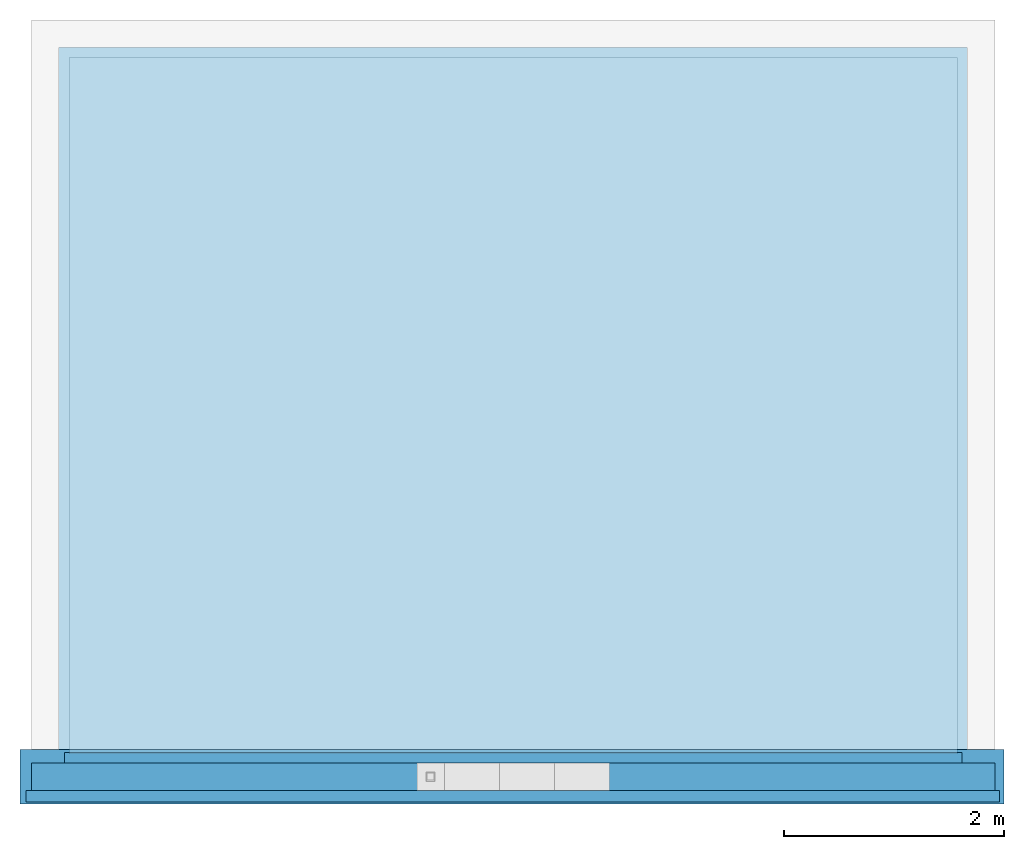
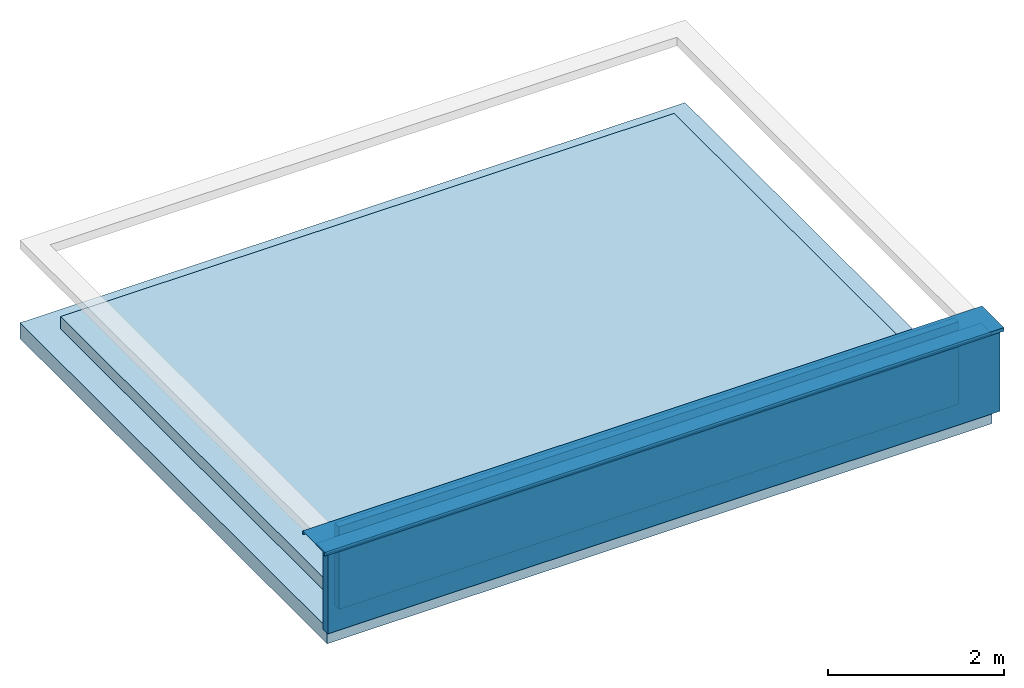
# One storey, incomplete: 3 walls, 2 slabs, 1 beam.
"""IFC4 building model written with IfcOpenShell, lengths in centimetres."""

import ifcopenshell
import ifcopenshell.guid

model = None  # the IFC model being written
_history = None  # IfcOwnerHistory: only IFC2X3 demands one
_inside = {}  # id of a spatial element -> (the spatial element, [elements in it])
_under = {}  # id of a project, library or spatial element -> (it, [spatial elements below it])
_declared = {}  # id of a project -> (the project, [libraries it declares])
_typed = {}  # id of a type object -> (the type object, [elements of that type])
_made_of = {}  # id of a material, layer set ... -> (it, [elements and type objects made of it])


def new_model(schema):
    """Start an empty IFC model of exactly this schema.

    Asked for "IFC4X3", IfcOpenShell would pick the latest addendum, in which some entities
    have other attributes; the version numbers below select the first issue.
    IFC2X3 requires an IfcOwnerHistory on every rooted entity: one is made here for all.
    """
    global model, _history
    if schema == "IFC4X3":
        model = ifcopenshell.file(schema_version=(4, 3, 0, 0))
    else:
        model = ifcopenshell.file(schema=schema)
    _inside.clear()
    _under.clear()
    _declared.clear()
    _typed.clear()
    _made_of.clear()
    _history = None
    if model.schema == "IFC2X3":
        org = make("IfcOrganization", Name="unknown")
        user = make(
            "IfcPersonAndOrganization",
            ThePerson=make("IfcPerson", FamilyName="unknown"),
            TheOrganization=org,
        )
        app = make(
            "IfcApplication",
            ApplicationDeveloper=org,
            Version="unknown",
            ApplicationFullName="unknown",
            ApplicationIdentifier="unknown",
        )
        _history = make(
            "IfcOwnerHistory",
            OwningUser=user,
            OwningApplication=app,
            ChangeAction="ADDED",
            CreationDate=0,
        )
    return model


def make(cls, **values):
    """One entity of the class cls with the attributes given. An attribute that is None is left unset."""
    return model.create_entity(
        cls, **{name: value for name, value in values.items() if value is not None}
    )


def entity(cls, *values):
    """Any entity or typed value of the class cls, its attributes in the order of the schema. None: left unset."""
    e = model.create_entity(cls)
    for i, value in enumerate(values):
        if value is not None:
            e[i] = value
    return e


def rooted(cls, **values):
    """An entity with a GlobalId (a new one), such as an element, a storey or a relation."""
    return make(cls, GlobalId=ifcopenshell.guid.new(), OwnerHistory=_history, **values)


def si_unit(unit_type, name, prefix=None):
    """IfcSIUnit, for example si_unit("LENGTHUNIT", "METRE", prefix="MILLI")."""
    return make("IfcSIUnit", UnitType=unit_type, Prefix=prefix, Name=name)


def converted_unit(unit_type, name, factor, base, dimensions=None, offset=None):
    """IfcConversionBasedUnit, such as the inch: factor (a typed value) times the base unit."""
    return make(
        "IfcConversionBasedUnit"
        if offset is None
        else "IfcConversionBasedUnitWithOffset",
        ConversionOffset=offset,
        Dimensions=None
        if dimensions is None
        else entity("IfcDimensionalExponents", *dimensions),
        UnitType=unit_type,
        Name=name,
        ConversionFactor=make(
            "IfcMeasureWithUnit", ValueComponent=factor, UnitComponent=base
        ),
    )


def assignment(units):
    """IfcUnitAssignment: the units of a project."""
    return None if units is None else make("IfcUnitAssignment", Units=units)


def point(xyz):
    """IfcCartesianPoint."""
    return None if xyz is None else make("IfcCartesianPoint", Coordinates=xyz)


def direction(xyz):
    """IfcDirection."""
    return None if xyz is None else make("IfcDirection", DirectionRatios=xyz)


def frame(location, z_axis=None, x_axis=None):
    """IfcAxis2Placement3D, a coordinate frame: its origin and axes. An axis left out is left unset."""
    return make(
        "IfcAxis2Placement3D",
        Location=point(location),
        Axis=direction(z_axis),
        RefDirection=direction(x_axis),
    )


def origin():
    """The frame at (0, 0, 0) with its axes left unset."""
    return frame((0.0, 0.0, 0.0))


def place(relative_to, where):
    """IfcLocalPlacement: puts the frame where relative to a parent placement (None: the world)."""
    return make(
        "IfcLocalPlacement", PlacementRelTo=relative_to, RelativePlacement=where
    )


def context(
    kind, dimensions, precision=None, world=None, true_north=None, identifier=None
):
    """IfcGeometricRepresentationContext, for example the 3D "Model" context."""
    return make(
        "IfcGeometricRepresentationContext",
        ContextIdentifier=identifier,
        ContextType=kind,
        CoordinateSpaceDimension=dimensions,
        Precision=precision,
        WorldCoordinateSystem=world,
        TrueNorth=true_north,
    )


def subcontext(parent, identifier, kind, view, scale=None):
    """IfcGeometricRepresentationSubContext, for example "Body" below "Model"."""
    return make(
        "IfcGeometricRepresentationSubContext",
        ContextIdentifier=identifier,
        ContextType=kind,
        ParentContext=parent,
        TargetScale=scale,
        TargetView=view,
    )


def project(units=None, contexts=None):
    """IfcProject with its units and contexts."""
    return rooted(
        "IfcProject",
        Name="project",
        RepresentationContexts=contexts,
        UnitsInContext=assignment(units),
    )


def spatial(cls, under=None, at=None, **own):
    """A site, building, storey or space (cls), placed at a placement, below another one or the project."""
    s = rooted(cls, ObjectPlacement=at, **own)
    if under is not None:
        _under.setdefault(under.id(), (under, []))[1].append(s)
    return s


def point_list(points):
    """IfcCartesianPointList2D or 3D."""
    cls = (
        "IfcCartesianPointList2D" if len(points[0]) == 2 else "IfcCartesianPointList3D"
    )
    return make(cls, CoordList=points)


def indexed_curve(points, segments=None, self_intersect=None):
    """IfcIndexedPolyCurve: lines and arcs through numbered points (the first is 1)."""
    return make(
        "IfcIndexedPolyCurve",
        Points=point_list(points),
        Segments=segments,
        SelfIntersect=self_intersect,
    )


def outline(outer, holes=None, kind="AREA"):
    """IfcArbitraryClosedProfileDef: a profile drawn as a closed curve; with holes, ...WithVoids."""
    if holes is None:
        return make("IfcArbitraryClosedProfileDef", ProfileType=kind, OuterCurve=outer)
    return make(
        "IfcArbitraryProfileDefWithVoids",
        ProfileType=kind,
        OuterCurve=outer,
        InnerCurves=holes,
    )


def extrude(swept, where, along, depth):
    """IfcExtrudedAreaSolid: the profile swept, set in the frame where, extruded along a direction by depth."""
    return make(
        "IfcExtrudedAreaSolid",
        SweptArea=swept,
        Position=where,
        ExtrudedDirection=direction(along),
        Depth=depth,
    )


def shape(context_of_items, identifier, shape_type, items):
    """IfcShapeRepresentation: the items that make up one representation, for example the "Body"."""
    return make(
        "IfcShapeRepresentation",
        ContextOfItems=context_of_items,
        RepresentationIdentifier=identifier,
        RepresentationType=shape_type,
        Items=items,
    )


def source(mapping_origin, context_of_items, identifier, shape_type, items):
    """IfcRepresentationMap: a shape defined once, which mapped items show again and again."""
    return make(
        "IfcRepresentationMap",
        MappingOrigin=mapping_origin,
        MappedRepresentation=shape(context_of_items, identifier, shape_type, items),
    )


def transform(
    local_origin,
    x_axis=None,
    y_axis=None,
    z_axis=None,
    scale=None,
    scale2=None,
    scale3=None,
    uniform=True,
):
    """IfcCartesianTransformationOperator3D, or its non-uniform kind. x_axis, y_axis, z_axis: its Axis1, 2, 3."""
    if uniform:
        return make(
            "IfcCartesianTransformationOperator3D",
            Axis1=direction(x_axis),
            Axis2=direction(y_axis),
            LocalOrigin=point(local_origin),
            Scale=scale,
            Axis3=direction(z_axis),
        )
    return make(
        "IfcCartesianTransformationOperator3DnonUniform",
        Axis1=direction(x_axis),
        Axis2=direction(y_axis),
        LocalOrigin=point(local_origin),
        Scale=scale,
        Axis3=direction(z_axis),
        Scale2=scale2,
        Scale3=scale3,
    )


def mapped(mapping_source, mapping_target):
    """IfcMappedItem: shows the shape of a source again, moved by a transform."""
    return make(
        "IfcMappedItem", MappingSource=mapping_source, MappingTarget=mapping_target
    )


def material(Name=None, Category=None):
    """IfcMaterial."""
    return make("IfcMaterial", Name=Name, Category=Category)


def constituent(of_material, Name=None, Category=None, fraction=None):
    """IfcMaterialConstituent: one of the materials an element consists of."""
    return make(
        "IfcMaterialConstituent",
        Name=Name,
        Material=of_material,
        Fraction=fraction,
        Category=Category,
    )


def constituent_set(constituents=None, Name=None):
    """IfcMaterialConstituentSet."""
    return make(
        "IfcMaterialConstituentSet", Name=Name, MaterialConstituents=constituents
    )


def made_of(thing, what):
    """Note that an element or type object is made of a material, layer set ...; save() writes the relation."""
    if what is not None:
        _made_of.setdefault(what.id(), (what, []))[1].append(thing)
    return thing


def type_object(cls, material=None, **own):
    """A type object (cls), such as IfcWallType, which elements share."""
    return made_of(rooted(cls, **own), material)


def type_shapes(of_type, sources):
    """Give a type object the sources (RepresentationMaps) that its elements show as mapped items."""
    of_type.RepresentationMaps = sources


def element(
    cls,
    number,
    at=None,
    inside=None,
    cuts=None,
    type_object=None,
    material=None,
    context=None,
    identifier="Body",
    shape_type=None,
    held_by="IfcProductDefinitionShape",
    body=None,
    shapes=None,
    **own,
):
    """One element of the class cls, such as IfcWall. Its Tag is "e" and its number.

    at: its placement. inside: the storey or other place that contains it. cuts: it is an
    opening in that element (IfcRelVoidsElement). A single representation is given by context,
    identifier, shape_type and body (its items); several are given by shapes. held_by: the class
    of the entity that holds the representations. save() writes the other relations.
    """
    e = rooted(cls, Tag="e%d" % number, ObjectPlacement=at, **own)
    if body is not None:
        shapes = [shape(context, identifier, shape_type, body)]
    if shapes is not None:
        e.Representation = make(held_by, Representations=shapes)
    if inside is not None:
        _inside.setdefault(inside.id(), (inside, []))[1].append(e)
    if cuts is not None:
        rooted(
            "IfcRelVoidsElement", RelatingBuildingElement=cuts, RelatedOpeningElement=e
        )
    if type_object is not None:
        _typed.setdefault(type_object.id(), (type_object, []))[1].append(e)
    return made_of(e, material)


def aggregate(whole, parts):
    """IfcRelAggregates: a whole, such as a stair, and the parts it consists of."""
    return rooted("IfcRelAggregates", RelatingObject=whole, RelatedObjects=parts)


def save(model, path):
    """Write the relations noted so far, then the file.

    IfcRelAggregates (storeys below a building ...), IfcRelContainedInSpatialStructure (elements
    in a storey), IfcRelDefinesByType, IfcRelAssociatesMaterial and IfcRelDeclares: one each for
    every whole, place, type object, material and project.
    """
    for whole, parts in _under.values():
        aggregate(whole, parts)
    for where, things in _inside.values():
        rooted(
            "IfcRelContainedInSpatialStructure",
            RelatedElements=things,
            RelatingStructure=where,
        )
    for kind, things in _typed.values():
        rooted("IfcRelDefinesByType", RelatedObjects=things, RelatingType=kind)
    for what, things in _made_of.values():
        rooted("IfcRelAssociatesMaterial", RelatedObjects=things, RelatingMaterial=what)
    for by, libraries in _declared.values():
        rooted("IfcRelDeclares", RelatingContext=by, RelatedDefinitions=libraries)
    model.write(path)


model = new_model("IFC4")

# Units and contexts
model_context = context("Model", 3, precision=0.001, world=origin(), true_north=direction((0.0, 1.0)))
body_context = subcontext(model_context, "Body", "Model", "MODEL_VIEW")
ifc_project = project(units=[si_unit("LENGTHUNIT", "METRE", prefix="CENTI"), si_unit("AREAUNIT", "SQUARE_METRE"), si_unit("VOLUMEUNIT", "CUBIC_METRE"), converted_unit("PLANEANGLEUNIT", "DEGREE", entity("IfcPlaneAngleMeasure", 0.017453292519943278), si_unit("PLANEANGLEUNIT", "RADIAN"), dimensions=[0, 0, 0, 0, 0, 0, 0])], contexts=[model_context])

# Site, building, storey
site_placement = place(None, origin())
site = spatial("IfcSite", under=ifc_project, at=site_placement, Name="Default", CompositionType="ELEMENT")
building_placement = place(site_placement, origin())
building = spatial("IfcBuilding", under=site, at=building_placement, CompositionType="ELEMENT")
storey_placement = place(building_placement, frame((0.0, 0.0, 843.0)))
storey = spatial("IfcBuildingStorey", under=building, at=storey_placement, Name="L03__ABOVE Slab", CompositionType="ELEMENT", Elevation=842.9999999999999)

# Beam
ifc_material_1 = material(Name="_SILL__Sill__Metal", Category="Miscellaneous")
beam_type = type_object("IfcBeamType", Name="Structural Framing : wll__PARAPET CAP__Metal__sf : Wall Coping w/ H 50mm Nose, Standing Seam Profile", PredefinedType="BEAM", material=ifc_material_1)
shared_shape = source(origin(), body_context, "Body", "SweptSolid", [
    extrude(outline(indexed_curve([(-3.4250000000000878, -24.900000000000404), (1.5749999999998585, -24.900000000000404), (1.5749999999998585, -24.10000000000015), (0.37499999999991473, -24.10000000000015), (0.37499999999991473, -24.300000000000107), (1.3749999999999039, -24.300000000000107), (1.3749999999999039, -24.700000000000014), (-3.225000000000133, -24.700000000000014), (-3.225000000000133, 24.699999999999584), (1.3749999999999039, 24.699999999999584), (1.3749999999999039, 24.299999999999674), (0.37499999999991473, 24.299999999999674), (0.37499999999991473, 24.099999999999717), (1.5749999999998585, 24.099999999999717), (1.5749999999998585, 24.899999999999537), (-3.4250000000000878, 24.899999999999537), (-3.4250000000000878, -24.900000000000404)], self_intersect=False)), frame((2766.7073258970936, 3163.202254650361, 968.6750000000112), z_axis=(-1.0, 0.0, 0.0), x_axis=(0.0, 0.0, -1.0)), (0.0, 0.0, 1.0), 893.9999999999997),
])
type_shapes(beam_type, [shared_shape])
beam_placement = place(storey_placement, frame((0.0, 0.0, -843.0)))
element("IfcBeam", 1, at=beam_placement, inside=storey, type_object=beam_type, material=ifc_material_1, Name="Structural Framing : wll__PARAPET CAP__Metal__sf : Wall Coping w/ H 50mm Nose, Standing Seam Profile", PredefinedType="BEAM", context=body_context, shape_type="MappedRepresentation", body=[
    mapped(shared_shape, transform((0.0, 0.0, 0.0), scale=1.0)),
])

# Slabs
ifc_material_2 = material(Name="_STRUCTURE__Wood CLT")
slab_type_1 = type_object("IfcSlabType", Name="Floors : Floor : flr__STRUCTURE__Wood CLT 22cm__TriqBriq, TW.5", PredefinedType="FLOOR", material=ifc_material_2)
slab_1_placement = place(storey_placement, origin())
element("IfcSlab", 2, at=slab_1_placement, inside=storey, type_object=slab_type_1, material=ifc_material_2, Name="Floors : Floor : flr__STRUCTURE__Wood CLT 22cm__TriqBriq, TW.5", PredefinedType="FLOOR", context=body_context, shape_type="SweptSolid", body=[
    extrude(outline(indexed_curve([(-349.9999999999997, -437.49999999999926), (350.0000000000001, -437.49999999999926), (350.0000000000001, 437.4999999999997), (-350.0000000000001, 437.4999999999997), (-349.9999999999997, -437.49999999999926)], self_intersect=False)), frame((2320.807325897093, 3500.7022546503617, 13.0), z_axis=(0.0, 0.0, -1.0), x_axis=(0.0, 1.0, 0.0)), (0.0, 0.0, 1.0), 21.99999999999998),
])
ifc_material_3 = material(Name="_FLR LAYERS__Screed, SL 0.5%__Semi-dry CEM, Rc ≥ 22.5 N/mm²", Category="Concrete")
ifc_constituent_1 = constituent(ifc_material_3, Name="_FLR LAYERS__Screed, SL 0.5%__Semi-dry CEM, Rc ≥ 22.5 N/mm²", Category="Concrete", fraction=0.1149425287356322)
ifc_material_4 = material(Name="_GREENERY__Subgrade__Earth")
ifc_constituent_2 = constituent(ifc_material_4, Name="_GREENERY__Subgrade__Earth", fraction=0.2298850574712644)
ifc_material_5 = material(Name="_GREENERY__Drainage & Storage Course__BauderGREEN DSE 20/1", Category="Unassigned")
ifc_constituent_3 = constituent(ifc_material_5, Name="_GREENERY__Drainage & Storage Course__BauderGREEN DSE 20/1", Category="Unassigned", fraction=0.1149425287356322)
ifc_material_6 = material(Name="_FLAT ROOF LAYERS__Filtering Fleece__Geotextile__BauderGREEN FV 125", Category="Unassigned")
ifc_constituent_4 = constituent(ifc_material_6, Name="_FLAT ROOF LAYERS__Filtering Fleece__Geotextile__BauderGREEN FV 125", Category="Unassigned", fraction=0.00574712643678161)
ifc_material_7 = material(Name="_FLAT ROOF LAYERS__WP Protection__Fiber Mat__BauderGREEN FSM 600", Category="Unassigned")
ifc_constituent_5 = constituent(ifc_material_7, Name="_FLAT ROOF LAYERS__WP Protection__Fiber Mat__BauderGREEN FSM 600", Category="Unassigned", fraction=0.02298850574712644)
ifc_material_8 = material(Name="_FLAT ROOF LAYERS__WP Membrane", Category="Unassigned")
ifc_constituent_6 = constituent(ifc_material_8, Name="_FLAT ROOF LAYERS__WP Membrane", Category="Unassigned", fraction=0.02298850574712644)
ifc_constituent_7 = constituent(ifc_material_8, Name="_FLAT ROOF LAYERS__WP Membrane", Category="Unassigned", fraction=0.02298850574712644)
ifc_material_9 = material(Name="_FND LAYERS__Insulation__Foam Glass__Glapor", Category="Unassigned")
ifc_constituent_8 = constituent(ifc_material_9, Name="_FND LAYERS__Insulation__Foam Glass__Glapor", Category="Unassigned", fraction=0.4597701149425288)
ifc_material_10 = material(Name="_FLAT ROOF LAYERS__Vapor Barrier__ProClima", Category="Unassigned")
ifc_constituent_9 = constituent(ifc_material_10, Name="_FLAT ROOF LAYERS__Vapor Barrier__ProClima", Category="Unassigned", fraction=0.00574712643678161)
ifc_constituent_set_1 = constituent_set(constituents=[ifc_constituent_1, ifc_constituent_2, ifc_constituent_3, ifc_constituent_4, ifc_constituent_5, ifc_constituent_6, ifc_constituent_7, ifc_constituent_8, ifc_constituent_9], Name="Floor:flr__EXT ENCLOSURE__Balkon")
slab_type_2 = type_object("IfcSlabType", Name="Floors : Floor : flr__EXT ENCLOSURE__Balkon", PredefinedType="FLOOR", material=ifc_constituent_set_1)
slab_2_placement = place(storey_placement, origin())
element("IfcSlab", 3, at=slab_2_placement, inside=storey, type_object=slab_type_2, material=ifc_constituent_set_1, Name="Floors : Floor : flr__EXT ENCLOSURE__Balkon", PredefinedType="FLOOR", context=body_context, shape_type="SweptSolid", body=[
    extrude(outline(indexed_curve([(-316.5000000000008, -403.60079286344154), (316.5000000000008, -403.60079286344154), (316.5000000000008, 403.60079286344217), (-316.5000000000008, 403.60079286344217), (-316.5000000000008, -403.60079286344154)], self_intersect=False)), frame((2320.807325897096, 3500.302254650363, 28.399999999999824), z_axis=(0.0, 0.0, 1.0), x_axis=(0.0, -1.0, 0.0)), (0.0, 0.0, 1.0), 1.9999999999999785),
    extrude(outline(indexed_curve([(-316.5000000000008, -403.60079286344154), (316.5000000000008, -403.60079286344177), (316.5000000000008, 403.60079286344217), (-316.5000000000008, 403.60079286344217), (-316.5000000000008, -403.60079286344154)], self_intersect=False)), frame((2320.807325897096, 3500.302254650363, 24.399999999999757), z_axis=(0.0, 0.0, 1.0), x_axis=(0.0, -1.0, 0.0)), (0.0, 0.0, 1.0), 4.000000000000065),
    extrude(outline(indexed_curve([(-316.5000000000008, -403.60079286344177), (316.5000000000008, -403.60079286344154), (316.5000000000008, 403.60079286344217), (-316.5000000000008, 403.60079286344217), (-316.5000000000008, -403.60079286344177)], self_intersect=False)), frame((2320.807325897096, 3500.302254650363, 22.39999999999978), z_axis=(0.0, 0.0, 1.0), x_axis=(0.0, -1.0, 0.0)), (0.0, 0.0, 1.0), 1.9999999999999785),
    extrude(outline(indexed_curve([(-316.5000000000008, -403.60079286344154), (316.5000000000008, -403.60079286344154), (316.5000000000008, 403.60079286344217), (-316.5000000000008, 403.60079286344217), (-316.5000000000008, -403.60079286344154)], self_intersect=False)), frame((2320.807325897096, 3500.302254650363, 22.2999999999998), z_axis=(0.0, 0.0, 1.0), x_axis=(0.0, -1.0, 0.0)), (0.0, 0.0, 1.0), 0.09999999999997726),
    extrude(outline(indexed_curve([(-316.5000000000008, -403.60079286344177), (316.5000000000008, -403.60079286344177), (316.5000000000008, 403.60079286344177), (-316.5000000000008, 403.60079286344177), (-316.5000000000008, -403.60079286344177)], self_intersect=False)), frame((2320.8073258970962, 3500.302254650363, 21.899999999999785), z_axis=(0.0, 0.0, 1.0), x_axis=(0.0, -1.0, 0.0)), (0.0, 0.0, 1.0), 0.40000000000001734),
    extrude(outline(indexed_curve([(-316.5000000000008, -403.60079286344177), (316.5000000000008, -403.60079286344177), (316.5000000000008, 403.60079286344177), (-316.5000000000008, 403.60079286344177), (-316.5000000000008, -403.60079286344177)], self_intersect=False)), frame((2320.8073258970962, 3500.302254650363, 21.49999999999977), z_axis=(0.0, 0.0, 1.0), x_axis=(0.0, -1.0, 0.0)), (0.0, 0.0, 1.0), 0.40000000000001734),
    extrude(outline(indexed_curve([(-316.5000000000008, -403.60079286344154), (316.5000000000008, -403.60079286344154), (316.5000000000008, 403.60079286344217), (-316.5000000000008, 403.60079286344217), (-316.5000000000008, -403.60079286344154)], self_intersect=False)), frame((2320.807325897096, 3500.302254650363, 21.09999999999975), z_axis=(0.0, 0.0, 1.0), x_axis=(0.0, -1.0, 0.0)), (0.0, 0.0, 1.0), 0.40000000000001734),
    extrude(outline(indexed_curve([(-316.5000000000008, -403.60079286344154), (316.5000000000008, -403.60079286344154), (316.5000000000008, 403.60079286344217), (-316.5000000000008, 403.60079286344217), (-316.5000000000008, -403.60079286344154)], self_intersect=False)), frame((2320.807325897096, 3500.302254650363, 13.099999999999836), z_axis=(0.0, 0.0, 1.0), x_axis=(0.0, -1.0, 0.0)), (0.0, 0.0, 1.0), 7.999999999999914),
    extrude(outline(indexed_curve([(-421.5333333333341, -403.60079286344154), (210.06666666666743, -403.60079286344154), (211.46666666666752, -403.60079286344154), (211.46666666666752, 403.60079286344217), (210.06666666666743, 403.60079286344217), (-421.5333333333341, 403.60079286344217), (-421.5333333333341, -403.60079286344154)], self_intersect=False)), frame((2320.807325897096, 3395.2689213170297, 13.0), z_axis=(0.0, 0.0, 1.0), x_axis=(0.0, -1.0, 0.0)), (0.0, 0.0, 1.0), 0.10000000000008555),
])

# Walls
ifc_material_11 = material(Name="_FCD FINISH__Spray-cork", Category="Concrete")
ifc_constituent_10 = constituent(ifc_material_11, Name="_FCD FINISH__Spray-cork", Category="Concrete", fraction=0.05660377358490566)
ifc_material_12 = material(Name="Default Wall", Category="Miscellaneous")
ifc_constituent_11 = constituent(ifc_material_12, Name="Layer", Category="Miscellaneous", fraction=0.14150943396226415)
ifc_material_13 = material(Name="_FCD LAYERS__Insulation__Wood-fiber__Steico", Category="Unassigned")
ifc_constituent_12 = constituent(ifc_material_13, Name="_FCD LAYERS__Insulation__Wood-fiber__Steico", Category="Unassigned", fraction=0.8018867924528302)
ifc_constituent_set_2 = constituent_set(constituents=[ifc_constituent_10, ifc_constituent_11, ifc_constituent_12], Name="Basic Wall:wll__EXT ENCLOSURE__Spritzkork, Wood Insulation 10.6cm__TriqBriq, FS.3 3")
wall_type_1 = type_object("IfcWallType", Name="Walls : Basic Wall : wll__EXT ENCLOSURE__Spritzkork, Wood Insulation 10.6cm__TriqBriq, FS.3 3", PredefinedType="STANDARD", material=ifc_constituent_set_2)
wall_1_placement = place(storey_placement, frame((2762.5073258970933, 3145.4022546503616, 13.0), z_axis=(0.0, 0.0, 1.0), x_axis=(-1.0, 0.0, 0.0)))
element("IfcWall", 4, at=wall_1_placement, inside=storey, type_object=wall_type_1, material=ifc_constituent_set_2, Name="Walls : Basic Wall : wll__EXT ENCLOSURE__Spritzkork, Wood Insulation 10.6cm__TriqBriq, FS.3 3", PredefinedType="NOTDEFINED", context=body_context, shape_type="SweptSolid", body=[
    extrude(outline(indexed_curve([(-442.24999999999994, -0.7499999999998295), (442.24999999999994, -0.7499999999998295), (442.24999999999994, 0.7499999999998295), (-442.24999999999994, 0.7499999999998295), (-442.24999999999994, -0.7499999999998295)], self_intersect=False)), frame((442.2500000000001, 3.949999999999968, 0.0)), (0.0, 0.0, 1.0), 114.90000000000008),
    extrude(outline(indexed_curve([(-4.250000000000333, -442.24999999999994), (4.2499999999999, -442.24999999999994), (4.2499999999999, 442.24999999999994), (-4.250000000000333, 442.24999999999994), (-4.250000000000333, -442.24999999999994)], self_intersect=False)), frame((442.2500000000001, -1.0499999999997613, 0.0), z_axis=(0.0, 0.0, 1.0), x_axis=(0.0, 1.0, 0.0)), (0.0, 0.0, 1.0), 114.90000000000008),
    extrude(outline(indexed_curve([(-0.3000000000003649, -442.24999999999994), (0.29999999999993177, -442.24999999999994), (0.29999999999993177, 442.24999999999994), (-0.3000000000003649, 442.24999999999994), (-0.3000000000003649, -442.24999999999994)], self_intersect=False)), frame((442.2500000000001, 5.0, 0.0), z_axis=(0.0, 0.0, 1.0), x_axis=(0.0, -1.0, 0.0)), (0.0, 0.0, 1.0), 114.90000000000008),
])
ifc_constituent_13 = constituent(ifc_material_11, Name="_FCD FINISH__Spray-cork", Category="Concrete", fraction=0.06315789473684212)
ifc_constituent_14 = constituent(ifc_material_8, Name="_FLAT ROOF LAYERS__WP Membrane", Category="Unassigned", fraction=0.04210526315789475)
ifc_constituent_15 = constituent(ifc_material_8, Name="_FLAT ROOF LAYERS__WP Membrane (2)", Category="Unassigned", fraction=0.04210526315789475)
ifc_constituent_16 = constituent(ifc_material_9, Name="_FND LAYERS__Insulation__Foam Glass__Glapor", Category="Unassigned", fraction=0.8421052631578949)
ifc_constituent_17 = constituent(ifc_material_10, Name="_FLAT ROOF LAYERS__Vapor Barrier__ProClima", Category="Unassigned", fraction=0.010526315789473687)
ifc_constituent_set_3 = constituent_set(constituents=[ifc_constituent_13, ifc_constituent_14, ifc_constituent_15, ifc_constituent_16, ifc_constituent_17], Name="Basic Wall:wll__EXT ENCLOSURE__Spritzkork, Foam Glass 9.5cm__TriqBriq, FS.4")
wall_type_2 = type_object("IfcWallType", Name="Walls : Basic Wall : wll__EXT ENCLOSURE__Spritzkork, Foam Glass 9.5cm__TriqBriq, FS.4", PredefinedType="STANDARD", material=ifc_constituent_set_3)
wall_2_placement = place(storey_placement, frame((2728.5573258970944, 3180.452254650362, 13.0), z_axis=(0.0, 0.0, 1.0), x_axis=(-1.0, 0.0, 0.0)))
element("IfcWall", 5, at=wall_2_placement, inside=storey, type_object=wall_type_2, material=ifc_constituent_set_3, Name="Walls : Basic Wall : wll__EXT ENCLOSURE__Spritzkork, Foam Glass 9.5cm__TriqBriq, FS.4", PredefinedType="NOTDEFINED", context=body_context, shape_type="SweptSolid", body=[
    extrude(outline(indexed_curve([(-0.04999999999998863, -407.75000000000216), (0.04999999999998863, -407.75000000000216), (0.04999999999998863, 407.7500000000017), (-0.04999999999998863, 407.7500000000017), (-0.04999999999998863, -407.75000000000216)], self_intersect=False)), frame((407.750000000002, 4.699999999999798, 0.0), z_axis=(0.0, 0.0, 1.0), x_axis=(0.0, -1.0, 0.0)), (0.0, 0.0, 1.0), 114.90000000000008),
    extrude(outline(indexed_curve([(-407.7500000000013, -2.6666666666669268), (-403.6007928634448, -2.6666666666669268), (403.6007928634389, -2.6666666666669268), (407.7500000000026, -2.6666666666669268), (407.7500000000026, 5.333333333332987), (-407.7500000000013, 5.333333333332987), (-407.7500000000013, -2.6666666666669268)], self_intersect=False)), frame((407.75000000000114, -0.6833333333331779, 0.0)), (0.0, 0.0, 1.0), 114.90000000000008),
    extrude(outline(indexed_curve([(-33.07499999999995, -407.75000000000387), (81.82500000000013, -407.75000000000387), (81.82500000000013, 407.75), (-33.07499999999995, 407.75), (-33.07499999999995, 403.6007928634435), (-15.674999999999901, 403.6007928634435), (-15.674999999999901, -403.60079286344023), (-33.07499999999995, -403.60079286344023), (-33.07499999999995, -407.75000000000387)], self_intersect=False)), frame((407.74999999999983, -3.3499999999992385, 33.07499999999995), z_axis=(0.0, -1.0, 0.0), x_axis=(0.0, 0.0, 1.0)), (0.0, 0.0, 1.0), 0.39999999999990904),
    extrude(outline(indexed_curve([(-33.07499999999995, -407.75000000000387), (81.82500000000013, -407.75000000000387), (81.82500000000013, 407.75), (-33.07499999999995, 407.75), (-33.07499999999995, 403.6007928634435), (-15.674999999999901, 403.6007928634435), (-15.674999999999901, -403.60079286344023), (-33.07499999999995, -403.60079286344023), (-33.07499999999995, -407.75000000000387)], self_intersect=False)), frame((407.74999999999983, -3.7499999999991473, 33.07499999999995), z_axis=(0.0, -1.0, 0.0), x_axis=(0.0, 0.0, 1.0)), (0.0, 0.0, 1.0), 0.39999999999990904),
    extrude(outline(indexed_curve([(-33.07499999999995, -407.75000000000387), (81.82500000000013, -407.75000000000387), (81.82500000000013, 407.75), (-33.07499999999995, 407.75), (-33.07499999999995, 403.6007928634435), (-15.674999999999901, 403.6007928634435), (-15.674999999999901, -403.60079286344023), (-33.07499999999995, -403.60079286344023), (-33.07499999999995, -407.75000000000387)], self_intersect=False)), frame((407.74999999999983, -4.149999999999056, 33.07499999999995), z_axis=(0.0, -1.0, 0.0), x_axis=(0.0, 0.0, 1.0)), (0.0, 0.0, 1.0), 0.6000000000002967),
])
ifc_material_14 = material(Name="_STRUCTURE__Wood Solid")
wall_type_3 = type_object("IfcWallType", Name="Columns : wll_s__DECOUPLING BEAM__Rectangular__wp : Wood", PredefinedType="SOLIDWALL", material=ifc_material_14)
wall_3_placement = place(storey_placement, frame((1883.3073258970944, 3150.702254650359, 113.0)))
element("IfcWall", 6, at=wall_3_placement, inside=storey, type_object=wall_type_3, material=ifc_material_14, Name="Columns : wll_s__DECOUPLING BEAM__Rectangular__wp : Wood", PredefinedType="SOLIDWALL", context=body_context, shape_type="SweptSolid", body=[
    extrude(outline(indexed_curve([(-12.500000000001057, -437.49999999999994), (12.49999999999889, -437.49999999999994), (12.500000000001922, 437.50000000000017), (-12.499999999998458, 437.50000000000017), (-12.500000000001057, -437.49999999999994)], self_intersect=False)), frame((437.49999999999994, 12.500000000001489, 0.0), z_axis=(0.0, 0.0, 1.0), x_axis=(0.0, -1.0, 0.0)), (0.0, 0.0, 1.0), 2.9999999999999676),
])

save(model, "model.ifc")
